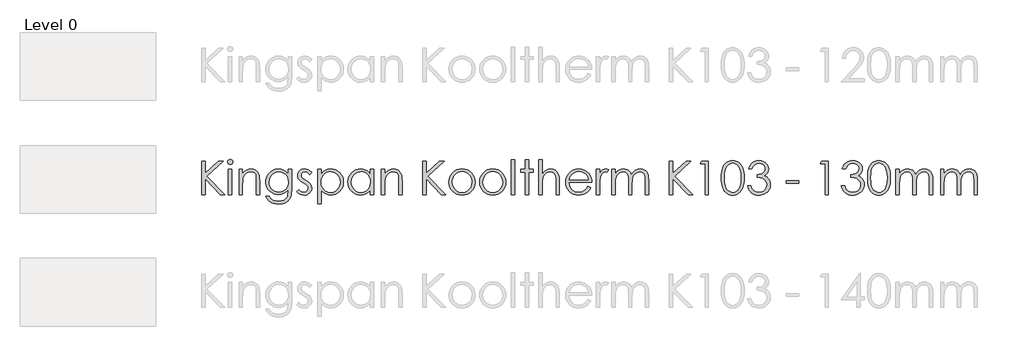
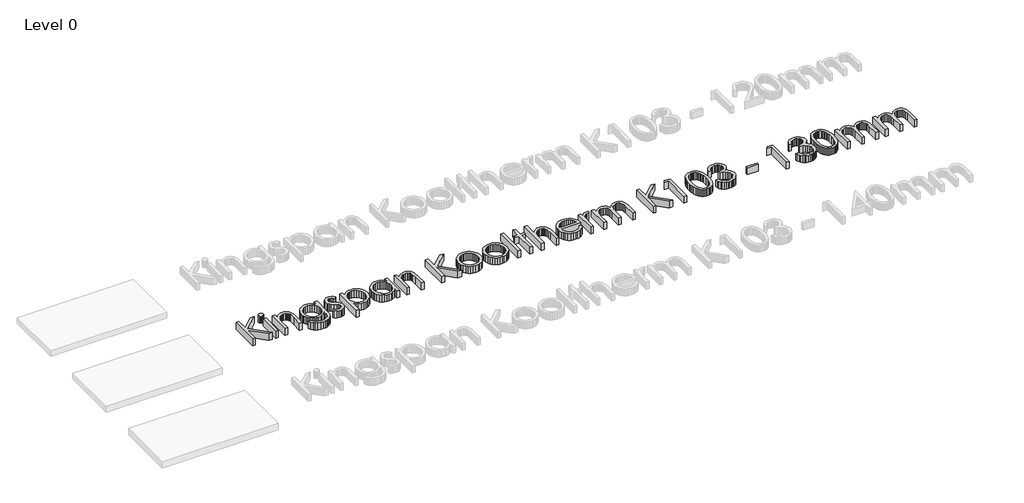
# One storey, part 3 of 13: 1 proxy.
"""IFC4 building model written with IfcOpenShell, lengths in millimetres."""

from ifc_helpers import new_model, si_unit, origin, origin_with_axes, place, context, project, spatial, polyline, outline, extrude, element, save

model = new_model("IFC4")

# Units and contexts
model_context = context("Model", 3, world=origin())
ifc_project = project(units=[si_unit("LENGTHUNIT", "METRE", prefix="MILLI")], contexts=[model_context])

# Site, building, storey
site = spatial("IfcSite", under=ifc_project)
building = spatial("IfcBuilding", under=site)
storey = spatial("IfcBuildingStorey", under=building, Name="Level 0", Elevation=0.0)

# Proxy
placement = place(None, origin())
element("IfcBuildingElementProxy", 1, Name="600mm KI_CenturyGothic", ObjectType="600mm KI_CenturyGothic", at=placement, inside=storey, context=model_context, shape_type="SweptSolid", body=[
    extrude(outline(polyline([(-3852.2663848, -14099.1034017), (-3792.944575, -14099.1034017), (-3792.944575, -14318.316027), (-3555.1938841, -14099.1034017), (-3471.6181051, -14099.1034017), (-3760.9664119, -14366.0515459), (-3441.9572002, -14692.3214999), (-3520.8984627, -14692.3214999), (-3792.944575, -14414.0960325), (-3792.944575, -14692.3214999), (-3852.2663848, -14692.3214999), (-3852.2663848, -14099.1034017)])), origin_with_axes(), (0.0, 0.0, 1.0), 150.0),
    extrude(outline(polyline([(-3348.1854852, -14069.4424967), (-3329.145347, -14072.7252792), (-3313.1176445, -14082.5736265), (-3302.226531, -14097.0178693), (-3298.5961598, -14114.088338), (-3302.226531, -14130.9270809), (-3313.1176445, -14145.2940817), (-3329.145347, -14155.142429), (-3348.1854852, -14158.4252115), (-3366.9938975, -14155.142429), (-3382.9443581, -14145.2940817), (-3393.8354717, -14130.9270809), (-3397.4658428, -14114.088338), (-3393.8354717, -14097.0178693), (-3382.9443581, -14082.5736265), (-3366.9938975, -14072.7252792), (-3348.1854852, -14069.4424967)])), origin_with_axes(), (0.0, 0.0, 1.0), 150.0),
    extrude(outline(polyline([(-3377.6919062, -14247.4079262), (-3318.3700964, -14247.4079262), (-3318.3700964, -14692.3214999), (-3377.6919062, -14692.3214999), (-3377.6919062, -14247.4079262)])), origin_with_axes(), (0.0, 0.0, 1.0), 150.0),
    extrude(outline(polyline([(-3189.8395084, -14247.4079262), (-3130.5176986, -14247.4079262), (-3130.5176986, -14326.5036726), (-3096.9946967, -14286.9944204), (-3060.0730495, -14259.303185), (-3019.7141359, -14242.9665147), (-2975.879335, -14237.5209579), (-2953.4357238, -14239.0995901), (-2932.2955704, -14243.8354865), (-2912.4588747, -14251.7286472), (-2893.9256368, -14262.7790723), (-2877.212412, -14276.5039994), (-2862.835756, -14292.4206667), (-2841.0921499, -14330.8292213), (-2833.6238199, -14355.2087086), (-2828.2892984, -14385.5551357), (-2824.0216812, -14464.1488095), (-2824.0216812, -14692.3214999), (-2883.343491, -14692.3214999), (-2883.343491, -14479.1337458), (-2883.343491, -14376.092998), (-2884.7290183, -14355.2956057), (-2889.8125035, -14337.2403023), (-2898.2849788, -14321.9270877), (-2910.1464442, -14309.355962), (-2924.7403432, -14299.5558909), (-2941.4101193, -14292.5558401), (-2980.977303, -14286.9557994), (-3005.3471351, -14289.1137461), (-3028.4038541, -14295.5875862), (-3050.1474602, -14306.3773197), (-3070.5779533, -14321.4829466), (-3088.6622225, -14339.7651482), (-3103.3671568, -14360.084606), (-3114.6927562, -14382.44132), (-3122.6390208, -14406.8352901), (-3128.5480292, -14453.9142525), (-3130.5176986, -14528.4141035), (-3130.5176986, -14692.3214999), (-3189.8395084, -14692.3214999), (-3189.8395084, -14247.4079262)])), origin_with_axes(), (0.0, 0.0, 1.0), 150.0),
    extrude(outline(polyline([(-2319.7862977, -14247.4079262), (-2260.4644879, -14247.4079262), (-2260.4644879, -14598.395301), (-2264.5196897, -14678.6496765), (-2269.588692, -14709.4499001), (-2276.6852953, -14734.0321474), (-2289.9371156, -14762.6454585), (-2307.2924139, -14787.7732271), (-2328.7511904, -14809.4154531), (-2354.3134448, -14827.5721366), (-2383.3226209, -14841.9343098), (-2415.122162, -14852.1930049), (-2449.7120682, -14858.348222), (-2487.0923395, -14860.3999611), (-2541.0458345, -14856.3833802), (-2589.206184, -14844.3336376), (-2630.260275, -14825.5059147), (-2662.8949946, -14801.1553932), (-2690.2000204, -14767.8061856), (-2715.2650299, -14721.9824048), (-2655.94322, -14721.9824048), (-2642.4355358, -14743.151524), (-2627.0933555, -14761.3951046), (-2609.9166791, -14776.7131468), (-2590.9055067, -14789.1056506), (-2569.7894914, -14798.6691682), (-2546.2982864, -14805.5002523), (-2492.1903075, -14810.9651195), (-2438.5071593, -14805.6354257), (-2415.083541, -14798.9733084), (-2393.93856, -14789.6463441), (-2359.6624492, -14765.6047903), (-2336.8567664, -14736.1176798), (-2329.3884364, -14717.4782342), (-2324.0539149, -14693.7697863), (-2319.7862977, -14631.1458835), (-2319.7862977, -14608.4367532), (-2354.757586, -14644.2190818), (-2396.6420279, -14670.6165148), (-2443.392712, -14686.8952536), (-2492.9627269, -14692.3214999), (-2522.4063889, -14690.4242447), (-2550.9521133, -14684.7324793), (-2578.5999001, -14675.2462036), (-2605.3497494, -14661.9654175), (-2630.1540674, -14645.4742634), (-2651.9652601, -14626.3568832), (-2670.7833277, -14604.6132772), (-2686.6082702, -14580.2434451), (-2699.1456025, -14553.9280817), (-2708.1008399, -14526.3478816), (-2713.4739824, -14497.5028447), (-2715.2650299, -14467.392971), (-2713.3967404, -14437.1044753), (-2707.7918722, -14407.8780563), (-2698.4504251, -14379.713714), (-2685.3723991, -14352.6114483), (-2668.9971079, -14327.4257483), (-2649.7638648, -14305.0111029), (-2627.67267, -14285.367512), (-2602.7235235, -14268.4949758), (-2575.9833294, -14254.943843), (-2548.5189922, -14245.2644624), (-2520.3305117, -14239.456834), (-2491.4178881, -14237.5209579), (-2444.5320306, -14242.4644421), (-2400.8903346, -14257.2948945), (-2359.6045177, -14283.8661218), (-2319.7862977, -14324.0319306), (-2319.7862977, -14247.4079262)]), holes=[polyline([(-2484.1571458, -14286.9557994), (-2529.0154023, -14292.9806707), (-2570.5908765, -14311.0552847), (-2606.2187212, -14339.7699758), (-2633.2340897, -14377.7150788), (-2650.2659375, -14421.9940208), (-2655.94322, -14469.7102292), (-2653.0080263, -14505.6229036), (-2644.2024452, -14538.2817613), (-2629.5264766, -14567.6868023), (-2608.9801206, -14593.8380266), (-2583.7606272, -14615.296803), (-2555.0652466, -14630.6245004), (-2522.8939786, -14639.8211189), (-2487.2468234, -14642.8866584), (-2451.3244937, -14639.845257), (-2419.1001219, -14630.7210528), (-2390.573708, -14615.5140459), (-2365.7452519, -14594.2242363), (-2345.6382095, -14567.9812872), (-2331.2760363, -14537.9148621), (-2322.6587323, -14504.024961), (-2319.7862977, -14466.3115838), (-2325.0773706, -14417.6105407), (-2340.9505892, -14374.3936754), (-2366.4983608, -14338.1672056), (-2400.8130926, -14310.4373492), (-2440.9982119, -14292.8261869), (-2484.1571458, -14286.9557994)])]), origin_with_axes(), (0.0, 0.0, 1.0), 150.0),
    extrude(outline(polyline([(-1904.5336289, -14298.6965743), (-1940.9918246, -14336.390641), (-1962.9575012, -14314.7628978), (-1984.6721416, -14299.3145098), (-2006.1357456, -14290.045477), (-2027.3483133, -14286.9557994), (-2052.181597, -14291.6289368), (-2073.2300256, -14305.6483489), (-2087.5970264, -14325.8857371), (-2092.3860267, -14349.212803), (-2088.4466878, -14370.7633042), (-2076.628671, -14391.2324183), (-2052.0657341, -14413.400855), (-2010.2006027, -14439.122421), (-1958.3326401, -14471.9888664), (-1939.8428507, -14487.8138088), (-1926.315856, -14503.2332311), (-1909.9791857, -14535.9065716), (-1904.5336289, -14572.4420092), (-1906.9474396, -14598.5884059), (-1914.1888714, -14622.6492701), (-1926.2579245, -14644.624602), (-1943.1545989, -14664.5144015), (-1963.6719892, -14681.0055557), (-1986.6031901, -14692.7849515), (-2011.9482016, -14699.852589), (-2039.7070237, -14702.2084682), (-2077.4397114, -14698.3270607), (-2113.3958344, -14686.6828383), (-2145.4512394, -14668.2027042), (-2171.4817731, -14643.8135617), (-2135.7959969, -14603.3387852), (-2114.0041146, -14624.9665283), (-2091.5749863, -14640.4149163), (-2068.5086121, -14649.6839491), (-2044.8049918, -14652.7736267), (-2013.637869, -14647.1349651), (-1987.4914724, -14630.2189802), (-1969.7644472, -14605.6560434), (-1963.8554388, -14577.0765256), (-1967.7561567, -14553.2860081), (-1979.4583106, -14532.2762005), (-2005.0253927, -14510.5712154), (-2050.2119275, -14483.7682622), (-2099.762632, -14453.1032121), (-2117.441381, -14437.9444814), (-2130.3890611, -14422.9016136), (-2146.3781427, -14390.7689666), (-2151.7078365, -14354.310771), (-2149.5305794, -14330.2643896), (-2142.9988078, -14308.3325063), (-2132.1125219, -14288.5151211), (-2116.8717217, -14270.812234), (-2098.309518, -14256.2473007), (-2077.4590218, -14245.8437769), (-2054.3202332, -14239.6016627), (-2028.8931521, -14237.5209579), (-1997.9481, -14241.3444339), (-1966.9064954, -14252.814862), (-1935.7683384, -14271.9322421), (-1904.5336289, -14298.6965743)])), origin_with_axes(), (0.0, 0.0, 1.0), 150.0),
    extrude(outline(polyline([(-1795.7769776, -14247.4079262), (-1736.4551678, -14247.4079262), (-1736.4551678, -14328.5119631), (-1700.9238754, -14288.2689124), (-1660.4490989, -14259.9211205), (-1614.9922173, -14243.1209986), (-1564.5146096, -14237.5209579), (-1520.0618732, -14241.7596094), (-1478.9305402, -14254.4755637), (-1441.1206107, -14275.668821), (-1406.6320845, -14305.3393811), (-1377.9077381, -14340.9768811), (-1357.3903478, -14380.070958), (-1345.0799137, -14422.6216116), (-1340.9764356, -14468.628842), (-1345.0412927, -14515.5291824), (-1357.235864, -14558.7508754), (-1377.5601494, -14598.293921), (-1406.014149, -14634.1583192), (-1440.2130179, -14663.9302594), (-1477.7719111, -14685.1959309), (-1518.6908288, -14697.9553339), (-1562.9697708, -14702.2084682), (-1612.6170277, -14696.743601), (-1658.0545988, -14680.3489992), (-1699.3211052, -14653.1019049), (-1736.4551678, -14615.07956), (-1736.4551678, -14850.5129928), (-1795.7769776, -14850.5129928), (-1795.7769776, -14247.4079262)]), holes=[polyline([(-1568.5311905, -14286.9557994), (-1602.5852307, -14290.2530647), (-1633.8392507, -14300.1448607), (-1662.2932503, -14316.6311872), (-1687.9472295, -14339.7120444), (-1709.1694525, -14367.6977647), (-1724.3281832, -14398.8986808), (-1733.4234216, -14433.3147926), (-1736.4551678, -14470.9461002), (-1731.048232, -14519.8016272), (-1714.8274246, -14563.4819442), (-1688.5265441, -14600.3263495), (-1652.8793888, -14628.6741414), (-1611.4390881, -14646.7487554), (-1567.7587711, -14652.7736267), (-1525.0632888, -14646.7101344), (-1485.0326535, -14628.5196576), (-1450.2544701, -14599.4187567), (-1423.3163435, -14560.6239924), (-1406.05277, -14515.9588407), (-1400.2982454, -14469.2467775), (-1405.9948385, -14422.3029886), (-1423.0846177, -14377.8695627), (-1449.8103289, -14339.5189395), (-1484.414718, -14310.8235589), (-1524.7157001, -14292.9227393), (-1568.5311905, -14286.9557994)])]), origin_with_axes(), (0.0, 0.0, 1.0), 150.0),
    extrude(outline(polyline([(-807.0801472, -14247.4079262), (-807.0801472, -14692.3214999), (-866.401957, -14692.3214999), (-866.401957, -14616.4699149), (-903.4780882, -14654.3184655), (-944.8797679, -14681.0441767), (-990.4525125, -14696.9173953), (-1040.0418379, -14702.2084682), (-1084.3159523, -14697.9553339), (-1125.2203871, -14685.1959309), (-1162.7551422, -14663.9302594), (-1196.9202178, -14634.1583192), (-1225.340424, -14598.293921), (-1245.6405713, -14558.7508754), (-1257.8206597, -14515.5291824), (-1261.8806892, -14468.628842), (-1257.7820388, -14422.6216116), (-1245.4860875, -14380.070958), (-1224.9928353, -14340.9768811), (-1196.3022822, -14305.3393811), (-1161.8475494, -14275.668821), (-1124.061758, -14254.4755637), (-1082.9449079, -14241.7596094), (-1038.4969991, -14237.5209579), (-987.7490446, -14243.1209986), (-942.0990581, -14259.9211205), (-921.2051134, -14272.6081091), (-901.6242816, -14288.2689124), (-866.401957, -14328.5119631), (-866.401957, -14247.4079262), (-807.0801472, -14247.4079262)]), holes=[polyline([(-1034.3259343, -14286.9557994), (-1078.1414247, -14292.9227393), (-1118.4424068, -14310.8235589), (-1153.0467959, -14339.5189395), (-1179.7725071, -14377.8695627), (-1196.8622863, -14422.3029886), (-1202.5588794, -14469.2467775), (-1196.8043548, -14515.9588407), (-1179.5407813, -14560.6239924), (-1152.6026548, -14599.4187567), (-1117.8244713, -14628.5196576), (-1077.6779731, -14646.7101344), (-1034.6349021, -14652.7736267), (-991.0125165, -14646.7487554), (-949.7460102, -14628.6741414), (-914.2726493, -14600.3263495), (-888.0297002, -14563.4819442), (-871.8088928, -14519.8016272), (-866.401957, -14470.9461002), (-869.4337032, -14433.3147926), (-878.5289416, -14398.8986808), (-893.6876723, -14367.6977647), (-914.9098953, -14339.7120444), (-940.5638746, -14316.6311872), (-969.0178742, -14300.1448607), (-1000.2718941, -14290.2530647), (-1034.3259343, -14286.9557994)])]), origin_with_axes(), (0.0, 0.0, 1.0), 150.0),
    extrude(outline(polyline([(-668.662591, -14247.4079262), (-609.3407811, -14247.4079262), (-609.3407811, -14326.5036726), (-575.8177792, -14286.9944204), (-538.896132, -14259.303185), (-498.5372184, -14242.9665147), (-454.7024175, -14237.5209579), (-432.2588064, -14239.0995901), (-411.1186529, -14243.8354865), (-391.2819572, -14251.7286472), (-372.7487193, -14262.7790723), (-356.0354946, -14276.5039994), (-341.6588385, -14292.4206667), (-319.9152324, -14330.8292213), (-312.4469024, -14355.2087086), (-307.1123809, -14385.5551357), (-302.8447637, -14464.1488095), (-302.8447637, -14692.3214999), (-362.1665735, -14692.3214999), (-362.1665735, -14479.1337458), (-362.1665735, -14376.092998), (-363.5521008, -14355.2956057), (-368.635586, -14337.2403023), (-377.1080613, -14321.9270877), (-388.9695267, -14309.355962), (-403.5634257, -14299.5558909), (-420.2332018, -14292.5558401), (-459.8003855, -14286.9557994), (-484.1702176, -14289.1137461), (-507.2269366, -14295.5875862), (-528.9705427, -14306.3773197), (-549.4010358, -14321.4829466), (-567.485305, -14339.7651482), (-582.1902393, -14360.084606), (-593.5158387, -14382.44132), (-601.4621033, -14406.8352901), (-607.3711117, -14453.9142525), (-609.3407811, -14528.4141035), (-609.3407811, -14692.3214999), (-668.662591, -14692.3214999), (-668.662591, -14247.4079262)])), origin_with_axes(), (0.0, 0.0, 1.0), 150.0),
    extrude(outline(polyline([(62.9730635, -14099.1034017), (122.2948734, -14099.1034017), (122.2948734, -14318.316027), (360.0455643, -14099.1034017), (443.6213432, -14099.1034017), (154.2730365, -14366.0515459), (473.2822481, -14692.3214999), (394.3409856, -14692.3214999), (122.2948734, -14414.0960325), (122.2948734, -14692.3214999), (62.9730635, -14692.3214999), (62.9730635, -14099.1034017)])), origin_with_axes(), (0.0, 0.0, 1.0), 150.0),
    extrude(outline(polyline([(760.1588128, -14237.5209579), (809.4681362, -14242.1458191), (854.3553585, -14256.0204025), (894.8204798, -14279.1447083), (930.8635, -14311.5187363), (957.7630055, -14346.7507161), (976.9769381, -14385.091684), (988.5052976, -14426.54164), (992.3480841, -14471.1005841), (988.283227, -14515.9153921), (976.0886558, -14557.8239721), (955.7643703, -14596.8263241), (927.3103707, -14632.9224481), (892.4742558, -14663.2350819), (853.0036246, -14684.8869632), (808.8984769, -14697.8780919), (760.1588128, -14702.2084682), (711.2839754, -14697.8780919), (667.0822753, -14684.8869632), (627.5537126, -14663.2350819), (592.6982872, -14632.9224481), (564.2442876, -14596.8263241), (543.9200022, -14557.8239721), (531.7254309, -14515.9153921), (527.6605738, -14471.1005841), (531.5033603, -14426.7347449), (543.0317198, -14385.4006518), (562.2456524, -14347.0983049), (589.145158, -14311.8277041), (625.2074886, -14279.3185026), (665.7305413, -14256.0976445), (710.7143161, -14242.1651295), (760.1588128, -14237.5209579)]), holes=[polyline([(760.004329, -14286.9557994), (725.7282181, -14290.3303067), (693.9624704, -14300.4538284), (664.7070856, -14317.3263647), (637.962064, -14340.9479154), (615.6584538, -14369.3584664), (599.7273037, -14400.5980035), (590.1686137, -14434.6665266), (586.9823836, -14471.5640357), (592.7948396, -14519.2995546), (610.2322075, -14563.6364281), (637.5758543, -14601.4270471), (673.1071466, -14629.5238028), (714.6439998, -14646.9611707), (760.004329, -14652.7736267), (805.3646581, -14646.9611707), (846.9015113, -14629.5238028), (882.4328037, -14601.4270471), (909.7764504, -14563.6364281), (927.2138183, -14519.2995546), (933.0262743, -14471.5640357), (929.8255614, -14434.6665266), (920.2234227, -14400.5980035), (904.2198583, -14369.3584664), (881.8148681, -14340.9479154), (854.9974321, -14317.3263647), (825.7565303, -14300.4538284), (794.0921625, -14290.3303067), (760.004329, -14286.9557994)])]), origin_with_axes(), (0.0, 0.0, 1.0), 150.0),
    extrude(outline(polyline([(1303.9420695, -14237.5209579), (1353.2513929, -14242.1458191), (1398.1386152, -14256.0204025), (1438.6037365, -14279.1447083), (1474.6467567, -14311.5187363), (1501.5462622, -14346.7507161), (1520.7601948, -14385.091684), (1532.2885543, -14426.54164), (1536.1313408, -14471.1005841), (1532.0664837, -14515.9153921), (1519.8719125, -14557.8239721), (1499.547627, -14596.8263241), (1471.0936274, -14632.9224481), (1436.2575126, -14663.2350819), (1396.7868813, -14684.8869632), (1352.6817336, -14697.8780919), (1303.9420695, -14702.2084682), (1255.0672321, -14697.8780919), (1210.865532, -14684.8869632), (1171.3369693, -14663.2350819), (1136.4815439, -14632.9224481), (1108.0275443, -14596.8263241), (1087.7032589, -14557.8239721), (1075.5086876, -14515.9153921), (1071.4438305, -14471.1005841), (1075.286617, -14426.7347449), (1086.8149766, -14385.4006518), (1106.0289091, -14347.0983049), (1132.9284147, -14311.8277041), (1168.9907453, -14279.3185026), (1209.5137981, -14256.0976445), (1254.4975728, -14242.1651295), (1303.9420695, -14237.5209579)]), holes=[polyline([(1303.7875857, -14286.9557994), (1269.5114748, -14290.3303067), (1237.7457271, -14300.4538284), (1208.4903423, -14317.3263647), (1181.7453207, -14340.9479154), (1159.4417105, -14369.3584664), (1143.5105604, -14400.5980035), (1133.9518704, -14434.6665266), (1130.7656404, -14471.5640357), (1136.5780963, -14519.2995546), (1154.0154643, -14563.6364281), (1181.359111, -14601.4270471), (1216.8904033, -14629.5238028), (1258.4272565, -14646.9611707), (1303.7875857, -14652.7736267), (1349.1479149, -14646.9611707), (1390.684768, -14629.5238028), (1426.2160604, -14601.4270471), (1453.5597071, -14563.6364281), (1470.997075, -14519.2995546), (1476.809531, -14471.5640357), (1473.6088181, -14434.6665266), (1464.0066795, -14400.5980035), (1448.003115, -14369.3584664), (1425.5981249, -14340.9479154), (1398.7806889, -14317.3263647), (1369.539787, -14300.4538284), (1337.8754193, -14290.3303067), (1303.7875857, -14286.9557994)])]), origin_with_axes(), (0.0, 0.0, 1.0), 150.0),
    extrude(outline(polyline([(1635.0010238, -14079.3294651), (1694.3228337, -14079.3294651), (1694.3228337, -14692.3214999), (1635.0010238, -14692.3214999), (1635.0010238, -14079.3294651)])), origin_with_axes(), (0.0, 0.0, 1.0), 150.0),
    extrude(outline(polyline([(1882.1752314, -14079.3294651), (1941.4970413, -14079.3294651), (1941.4970413, -14247.4079262), (2020.5927877, -14247.4079262), (2020.5927877, -14296.8427677), (1941.4970413, -14296.8427677), (1941.4970413, -14692.3214999), (1882.1752314, -14692.3214999), (1882.1752314, -14296.8427677), (1803.079485, -14296.8427677), (1803.079485, -14247.4079262), (1882.1752314, -14247.4079262), (1882.1752314, -14079.3294651)])), origin_with_axes(), (0.0, 0.0, 1.0), 150.0),
    extrude(outline(polyline([(2119.4624707, -14079.3294651), (2178.7842806, -14079.3294651), (2178.7842806, -14328.0485114), (2212.5583188, -14288.3461544), (2249.6151394, -14260.0756044), (2289.9161216, -14243.1596195), (2333.4226442, -14237.5209579), (2355.8662553, -14239.0995901), (2377.0064088, -14243.8354865), (2396.8431044, -14251.7286472), (2415.3763424, -14262.7790723), (2432.0895671, -14276.4895166), (2446.4662232, -14292.3627352), (2468.2098293, -14330.5974955), (2475.6781593, -14354.9045684), (2481.0126808, -14385.2654784), (2485.280298, -14464.1488095), (2485.280298, -14692.3214999), (2425.9584882, -14692.3214999), (2425.9584882, -14479.1337458), (2424.5681332, -14414.752589), (2420.3970685, -14376.092998), (2406.879729, -14337.2403023), (2397.1665551, -14321.9270877), (2385.4837117, -14309.355962), (2371.840854, -14299.5558909), (2356.2476374, -14292.5558401), (2319.2101273, -14286.9557994), (2296.3416854, -14289.1137461), (2274.6994594, -14295.5875862), (2254.2834492, -14306.3773197), (2235.0936547, -14321.4829466), (2218.1052556, -14339.7651482), (2204.2934312, -14360.084606), (2193.6581816, -14382.44132), (2186.1995068, -14406.8352901), (2180.6380871, -14453.6825267), (2178.7842806, -14528.4141035), (2178.7842806, -14692.3214999), (2119.4624707, -14692.3214999), (2119.4624707, -14079.3294651)])), origin_with_axes(), (0.0, 0.0, 1.0), 150.0),
    extrude(outline(polyline([(2991.0605203, -14544.0169753), (3038.950523, -14569.1978477), (3013.3255094, -14611.0822896), (2984.0315038, -14644.0452875), (2950.952643, -14669.1296074), (2913.9730643, -14687.3780157), (2872.4941426, -14698.5008551), (2825.9172528, -14702.2084682), (2774.4258447, -14697.7767119), (2728.8627554, -14684.481443), (2689.227985, -14662.3226615), (2655.5215335, -14631.3003674), (2628.6220279, -14594.6973431), (2609.4080954, -14555.7963712), (2597.8797358, -14514.5974515), (2594.0369493, -14471.1005841), (2597.3197318, -14430.2202874), (2607.1680791, -14391.618628), (2623.5819913, -14355.2956057), (2646.5614684, -14321.2512207), (2682.7493173, -14284.6192308), (2724.5758277, -14258.4535236), (2772.0409998, -14242.7540993), (2825.1448334, -14237.5209579), (2879.7935059, -14242.8892727), (2928.6490329, -14258.9942172), (2971.7114143, -14285.8357913), (3008.9806503, -14323.4139951), (3030.4539096, -14355.585263), (3045.9022976, -14391.541386), (3055.3258143, -14431.2823641), (3058.7244596, -14474.8081972), (2653.3587591, -14474.8081972), (2657.095338, -14512.0629503), (2666.6057518, -14545.8128504), (2681.8900007, -14576.0578975), (2702.9480845, -14602.7980916), (2728.3124066, -14624.6623882), (2756.5153699, -14640.2797429), (2787.5569744, -14649.6501557), (2821.4372203, -14652.7736267), (2854.9602222, -14649.761191), (2887.5563208, -14640.7238841), (2917.2944677, -14626.6851615), (2942.2436143, -14608.668479), (2965.725164, -14582.5027719), (2991.0605203, -14544.0169753)]), holes=[polyline([(2999.4026498, -14425.3733557), (2984.9777175, -14382.8516678), (2965.1844704, -14349.8307385), (2939.0766947, -14324.3022774), (2905.7081767, -14304.257994), (2867.7630738, -14291.2813481), (2827.9255433, -14286.9557994), (2795.503239, -14289.6689226), (2765.4368139, -14297.808292), (2737.726268, -14311.3739077), (2712.3716012, -14330.3657696), (2695.8321708, -14348.179692), (2681.4362043, -14369.9522638), (2669.1837016, -14395.683485), (2659.0746627, -14425.3733557), (2999.4026498, -14425.3733557)])]), origin_with_axes(), (0.0, 0.0, 1.0), 150.0),
    extrude(outline(polyline([(3137.820206, -14247.4079262), (3197.1420159, -14247.4079262), (3197.1420159, -14311.8277041), (3222.6897875, -14278.7874643), (3249.589293, -14255.6728138), (3277.7632906, -14242.0589219), (3307.1345382, -14237.5209579), (3330.4616041, -14241.305813), (3355.3335087, -14252.6603781), (3325.8270877, -14294.6799934), (3297.2475699, -14286.9557994), (3270.8308265, -14292.9034288), (3245.3409863, -14310.7463169), (3223.2884125, -14341.1023993), (3207.183468, -14384.5896114), (3199.6523789, -14442.7141712), (3197.1420159, -14540.1548783), (3197.1420159, -14692.3214999), (3137.820206, -14692.3214999), (3137.820206, -14247.4079262)])), origin_with_axes(), (0.0, 0.0, 1.0), 150.0),
    extrude(outline(polyline([(3414.6553185, -14247.4079262), (3473.9771284, -14247.4079262), (3473.9771284, -14323.5684789), (3503.5607913, -14287.0716623), (3533.9168737, -14261.9294109), (3577.3268439, -14243.6230712), (3622.8995884, -14237.5209579), (3653.7384329, -14240.668567), (3682.9165757, -14250.1113941), (3708.6767627, -14264.7873627), (3729.2617397, -14283.634396), (3746.0425511, -14309.0663047), (3760.3902414, -14343.4968994), (3775.16759, -14319.0981017), (3791.6925376, -14297.808292), (3809.965084, -14279.6274704), (3829.9852293, -14264.5556369), (3851.2798666, -14252.7279648), (3873.375889, -14244.2796277), (3896.2732965, -14239.2106253), (3919.9720892, -14237.5209579), (3962.3006723, -14243.3334139), (3981.4952943, -14250.5989839), (3999.3768034, -14260.7707818), (4015.4914031, -14273.53984), (4029.385297, -14288.5971907), (4050.5109676, -14325.5767694), (4057.8103309, -14348.9521114), (4063.0241619, -14377.5219739), (4067.1952266, -14450.2452603), (4067.1952266, -14692.3214999), (4007.8734168, -14692.3214999), (4007.8734168, -14446.6921311), (4005.4209852, -14385.5744462), (3998.0636904, -14347.1272706), (3984.7587663, -14322.6608861), (3964.4634466, -14303.4855746), (3938.3942919, -14291.0882432), (3907.7678627, -14286.9557994), (3888.1194442, -14288.5054659), (3869.3399976, -14293.1544651), (3834.3880198, -14311.7504621), (3805.6540182, -14340.6968791), (3785.8800816, -14377.9468046), (3779.1889985, -14402.1042213), (3774.4096535, -14433.1747916), (3770.5861775, -14516.0553931), (3770.5861775, -14692.3214999), (3711.2643677, -14692.3214999), (3711.2643677, -14461.9860352), (3708.850557, -14393.530366), (3701.6091252, -14351.2983353), (3688.3621325, -14325.0553863), (3667.9316394, -14304.5669617), (3641.6114484, -14291.35859), (3610.6953619, -14286.9557994), (3573.7544042, -14292.9999812), (3539.2465676, -14311.1325266), (3510.2808401, -14339.499629), (3489.9662099, -14376.2474819), (3477.9743988, -14428.0768236), (3473.9771284, -14501.6883923), (3473.9771284, -14692.3214999), (3414.6553185, -14692.3214999), (3414.6553185, -14247.4079262)])), origin_with_axes(), (0.0, 0.0, 1.0), 150.0),
    extrude(outline(polyline([(4433.0130538, -14099.1034017), (4492.3348637, -14099.1034017), (4492.3348637, -14318.316027), (4730.0855546, -14099.1034017), (4813.6613335, -14099.1034017), (4524.3130268, -14366.0515459), (4843.3222385, -14692.3214999), (4764.3809759, -14692.3214999), (4492.3348637, -14414.0960325), (4492.3348637, -14692.3214999), (4433.0130538, -14692.3214999), (4433.0130538, -14099.1034017)])), origin_with_axes(), (0.0, 0.0, 1.0), 150.0),
    extrude(outline(polyline([(5010.6282802, -14099.1034017), (5125.1008351, -14099.1034017), (5125.1008351, -14692.3214999), (5065.7790253, -14692.3214999), (5065.7790253, -14148.5382432), (4976.7963106, -14148.5382432), (5010.6282802, -14099.1034017)])), origin_with_axes(), (0.0, 0.0, 1.0), 150.0),
    extrude(outline(polyline([(5352.5011061, -14395.8669347), (5354.0797383, -14341.4355052), (5358.8156347, -14293.5406748), (5366.7087954, -14252.1824436), (5377.7592204, -14217.3608116), (5391.6869077, -14187.7192172), (5408.2118552, -14161.9010988), (5427.334063, -14139.9064564), (5449.053531, -14121.73529), (5472.747496, -14107.5082902), (5497.793195, -14097.3461475), (5524.190628, -14091.2488619), (5551.9397949, -14089.2164334), (5580.1427582, -14091.2633448), (5606.974677, -14097.404079), (5632.4355515, -14107.638636), (5656.5253815, -14121.9670159), (5678.7083011, -14140.3843909), (5698.4484443, -14162.8859335), (5715.7458112, -14189.4716437), (5730.6004018, -14220.1415214), (5742.5294539, -14255.6583309), (5751.0502054, -14296.7848363), (5756.1626563, -14343.5210375), (5757.8668066, -14395.8669347), (5756.1867944, -14448.0535203), (5751.1467578, -14494.6207548), (5742.7466968, -14535.5686382), (5730.9866115, -14570.8971704), (5716.2768496, -14601.4222195), (5699.0277589, -14627.9596535), (5679.2393394, -14650.5094723), (5656.9115912, -14669.071676), (5632.6527944, -14683.5690226), (5607.0712295, -14693.9242701), (5580.1668963, -14700.1374187), (5551.9397949, -14702.2084682), (5524.2147661, -14700.2001778), (5497.8897474, -14694.1753064), (5472.964739, -14684.1338543), (5449.4397407, -14670.0758212), (5427.8651013, -14652.0398282), (5408.7911698, -14630.0644964), (5392.2179461, -14604.1498255), (5378.1454301, -14574.2958158), (5366.9260384, -14539.2762513), (5358.9121871, -14497.8649163), (5354.1038764, -14450.0618107), (5352.5011061, -14395.8669347)]), holes=[polyline([(5411.8229159, -14395.7124508), (5416.206396, -14484.038609), (5421.6857461, -14519.0195525), (5429.3568363, -14547.8790723), (5439.1713903, -14572.1185586), (5451.0811319, -14593.2394015), (5465.0860611, -14611.2416011), (5481.1861779, -14626.1251574), (5516.4857445, -14646.1115094), (5534.8886366, -14651.1080973), (5553.7936014, -14652.7736267), (5572.7854634, -14651.1418907), (5591.1400794, -14646.2466828), (5625.9375733, -14626.665851), (5641.694929, -14611.9898824), (5655.4439943, -14594.0697524), (5667.1847692, -14572.9054608), (5676.9172536, -14548.4970078), (5686.3793912, -14515.1381451), (5693.138061, -14478.5544313), (5698.5449967, -14395.7124508), (5693.7173755, -14314.1063413), (5687.682849, -14279.4150551), (5679.2345118, -14248.7982811), (5668.652366, -14222.135329), (5656.2164137, -14199.3055082), (5641.9266548, -14180.3088186), (5625.7830894, -14165.1452603), (5590.7152487, -14145.2747712), (5572.4861509, -14140.307149), (5553.7936014, -14138.6512749), (5534.7776014, -14140.307149), (5516.3505711, -14145.2747712), (5481.2634199, -14165.1452603), (5465.3177869, -14179.9564022), (5451.3900996, -14197.8958428), (5439.480358, -14218.9635819), (5429.5885621, -14243.1596195), (5421.8160919, -14272.0143117), (5416.2643275, -14307.0580143), (5411.8229159, -14395.7124508)])]), origin_with_axes(), (0.0, 0.0, 1.0), 150.0),
    extrude(outline(polyline([(5896.2843628, -14237.5209579), (5836.962553, -14237.5209579), (5847.4867673, -14203.8917483), (5861.9116996, -14174.3756721), (5880.2373498, -14148.9727291), (5902.463718, -14127.6829194), (5927.7314876, -14110.8538318), (5955.181342, -14098.8330549), (5984.8132812, -14091.6205887), (6016.6273051, -14089.2164334), (6062.9145376, -14094.3723328), (6105.9962296, -14109.8400313), (6142.7827034, -14134.0553795), (6170.1842816, -14165.454228), (6187.2161294, -14201.2365567), (6192.8934119, -14238.6023451), (6188.2106193, -14274.037085), (6174.1622415, -14305.5711069), (6150.7482785, -14333.2044109), (6117.9687303, -14356.936997), (6155.3538292, -14378.1012885), (6185.3237018, -14407.2987418), (6201.6120959, -14431.398227), (6213.2466631, -14456.8880672), (6220.2274034, -14483.7682622), (6222.5543169, -14512.0388122), (6220.8549942, -14536.7031292), (6215.7570261, -14560.7977868), (6207.2604128, -14584.3227851), (6195.365154, -14607.2781241), (6180.5347016, -14628.6644862), (6163.232507, -14647.4825538), (6143.4585704, -14663.7323269), (6121.2128917, -14677.4138055), (6097.0361646, -14688.2614704), (6071.4690825, -14696.0098025), (6044.5116454, -14700.6588018), (6016.1638535, -14702.2084682), (5978.6290984, -14699.5387936), (5944.3481599, -14691.52977), (5913.3210382, -14678.1813973), (5885.5477332, -14659.4936754), (5861.6654909, -14635.6403989), (5842.3115573, -14606.795362), (5827.4859325, -14572.9585647), (5817.1886164, -14534.130007), (5876.5104262, -14534.130007), (5895.5505644, -14584.8779615), (5907.6485832, -14604.169136), (5921.4652352, -14619.4051087), (5941.5288291, -14634.0038353), (5964.180028, -14644.4314972), (5989.4188318, -14650.6880943), (6017.2452407, -14652.7736267), (6048.6054683, -14650.2777465), (6076.7215344, -14642.7901059), (6101.593439, -14630.310705), (6123.2211822, -14612.8395438), (6140.7261368, -14592.0180133), (6153.2296758, -14569.487505), (6160.7317992, -14545.2480188), (6163.232507, -14519.2995546), (6158.2310914, -14484.7337865), (6143.2268446, -14452.4080346), (6119.8032263, -14425.0450774), (6089.5436964, -14405.3676933), (6046.6357988, -14392.5648417), (5985.2670776, -14385.8254825), (5985.2670776, -14336.390641), (6027.1515195, -14332.7409593), (6065.0580014, -14321.7919143), (6096.0706403, -14305.2042077), (6117.2735528, -14284.6385412), (6129.4970898, -14261.0797496), (6133.5716021, -14235.5126675), (6131.5102078, -14216.4821845), (6125.326025, -14198.7841251), (6115.0190537, -14182.4184891), (6100.5892938, -14167.3852765), (6083.0119248, -14154.8141508), (6063.2621263, -14145.8347753), (6041.3398983, -14140.44715), (6017.2452407, -14138.6512749), (5979.2228958, -14144.270626), (5946.7233496, -14161.1286794), (5932.4191078, -14174.3322235), (5919.2445295, -14191.4654513), (5896.2843628, -14237.5209579)])), origin_with_axes(), (0.0, 0.0, 1.0), 150.0),
    extrude(outline(polyline([(6499.3894294, -14445.1472923), (6726.7897004, -14445.1472923), (6726.7897004, -14494.5821338), (6499.3894294, -14494.5821338), (6499.3894294, -14445.1472923)])), origin_with_axes(), (0.0, 0.0, 1.0), 150.0),
    extrude(outline(polyline([(7136.3264656, -14099.1034017), (7250.7990205, -14099.1034017), (7250.7990205, -14692.3214999), (7191.4772106, -14692.3214999), (7191.4772106, -14148.5382432), (7102.4944959, -14148.5382432), (7136.3264656, -14099.1034017)])), origin_with_axes(), (0.0, 0.0, 1.0), 150.0),
    extrude(outline(polyline([(7557.2950379, -14237.5209579), (7497.9732281, -14237.5209579), (7508.4974424, -14203.8917483), (7522.9223746, -14174.3756721), (7541.2480249, -14148.9727291), (7563.4743931, -14127.6829194), (7588.7421626, -14110.8538318), (7616.192017, -14098.8330549), (7645.8239562, -14091.6205887), (7677.6379802, -14089.2164334), (7723.9252127, -14094.3723328), (7767.0069046, -14109.8400313), (7803.7933785, -14134.0553795), (7831.1949567, -14165.454228), (7848.2268044, -14201.2365567), (7853.904087, -14238.6023451), (7849.2212944, -14274.037085), (7835.1729166, -14305.5711069), (7811.7589536, -14333.2044109), (7778.9794053, -14356.936997), (7816.3645042, -14378.1012885), (7846.3343769, -14407.2987418), (7862.622771, -14431.398227), (7874.2573382, -14456.8880672), (7881.2380785, -14483.7682622), (7883.5649919, -14512.0388122), (7881.8656692, -14536.7031292), (7876.7677012, -14560.7977868), (7868.2710878, -14584.3227851), (7856.3758291, -14607.2781241), (7841.5453766, -14628.6644862), (7824.2431821, -14647.4825538), (7804.4692455, -14663.7323269), (7782.2235668, -14677.4138055), (7758.0468396, -14688.2614704), (7732.4797575, -14696.0098025), (7705.5223205, -14700.6588018), (7677.1745286, -14702.2084682), (7639.6397734, -14699.5387936), (7605.358835, -14691.52977), (7574.3317132, -14678.1813973), (7546.5584082, -14659.4936754), (7522.676166, -14635.6403989), (7503.3222324, -14606.795362), (7488.4966076, -14572.9585647), (7478.1992914, -14534.130007), (7537.5211013, -14534.130007), (7556.5612394, -14584.8779615), (7568.6592583, -14604.169136), (7582.4759103, -14619.4051087), (7602.5395042, -14634.0038353), (7625.190703, -14644.4314972), (7650.4295069, -14650.6880943), (7678.2559157, -14652.7736267), (7709.6161433, -14650.2777465), (7737.7322094, -14642.7901059), (7762.6041141, -14630.310705), (7784.2318572, -14612.8395438), (7801.7368119, -14592.0180133), (7814.2403509, -14569.487505), (7821.7424743, -14545.2480188), (7824.2431821, -14519.2995546), (7819.2417665, -14484.7337865), (7804.2375197, -14452.4080346), (7780.8139014, -14425.0450774), (7750.5543714, -14405.3676933), (7707.6464738, -14392.5648417), (7646.2777526, -14385.8254825), (7646.2777526, -14336.390641), (7688.1621945, -14332.7409593), (7726.0686765, -14321.7919143), (7757.0813154, -14305.2042077), (7778.2842279, -14284.6385412), (7790.5077648, -14261.0797496), (7794.5822772, -14235.5126675), (7792.5208829, -14216.4821845), (7786.3367001, -14198.7841251), (7776.0297287, -14182.4184891), (7761.5999688, -14167.3852765), (7744.0225999, -14154.8141508), (7724.2728014, -14145.8347753), (7702.3505733, -14140.44715), (7678.2559157, -14138.6512749), (7640.2335708, -14144.270626), (7607.7340246, -14161.1286794), (7593.4297829, -14174.3322235), (7580.2552045, -14191.4654513), (7557.2950379, -14237.5209579)])), origin_with_axes(), (0.0, 0.0, 1.0), 150.0),
    extrude(outline(polyline([(7942.8868017, -14395.8669347), (7944.4654339, -14341.4355052), (7949.2013303, -14293.5406748), (7957.094491, -14252.1824436), (7968.1449161, -14217.3608116), (7982.0726034, -14187.7192172), (7998.5975509, -14161.9010988), (8017.7197586, -14139.9064564), (8039.4392266, -14121.73529), (8063.1331916, -14107.5082902), (8088.1788906, -14097.3461475), (8114.5763236, -14091.2488619), (8142.3254905, -14089.2164334), (8170.5284538, -14091.2633448), (8197.3603726, -14097.404079), (8222.8212471, -14107.638636), (8246.9110771, -14121.9670159), (8269.0939967, -14140.3843909), (8288.8341399, -14162.8859335), (8306.1315069, -14189.4716437), (8320.9860974, -14220.1415214), (8332.9151495, -14255.6583309), (8341.435901, -14296.7848363), (8346.5483519, -14343.5210375), (8348.2525022, -14395.8669347), (8346.57249, -14448.0535203), (8341.5324534, -14494.6207548), (8333.1323925, -14535.5686382), (8321.3723071, -14570.8971704), (8306.6625452, -14601.4222195), (8289.4134545, -14627.9596535), (8269.625035, -14650.5094723), (8247.2972868, -14669.071676), (8223.03849, -14683.5690226), (8197.4569251, -14693.9242701), (8170.5525919, -14700.1374187), (8142.3254905, -14702.2084682), (8114.6004617, -14700.2001778), (8088.2754431, -14694.1753064), (8063.3504346, -14684.1338543), (8039.8254363, -14670.0758212), (8018.2507969, -14652.0398282), (7999.1768654, -14630.0644964), (7982.6036417, -14604.1498255), (7968.5311258, -14574.2958158), (7957.311734, -14539.2762513), (7949.2978827, -14497.8649163), (7944.489572, -14450.0618107), (7942.8868017, -14395.8669347)]), holes=[polyline([(8002.2086116, -14395.7124508), (8006.5920916, -14484.038609), (8012.0714418, -14519.0195525), (8019.7425319, -14547.8790723), (8029.5570859, -14572.1185586), (8041.4668275, -14593.2394015), (8055.4717567, -14611.2416011), (8071.5718736, -14626.1251574), (8106.8714401, -14646.1115094), (8125.2743323, -14651.1080973), (8144.179297, -14652.7736267), (8163.171159, -14651.1418907), (8181.525775, -14646.2466828), (8216.3232689, -14626.665851), (8232.0806246, -14611.9898824), (8245.8296899, -14594.0697524), (8257.5704648, -14572.9054608), (8267.3029492, -14548.4970078), (8276.7650868, -14515.1381451), (8283.5237566, -14478.5544313), (8288.9306924, -14395.7124508), (8284.1030711, -14314.1063413), (8278.0685446, -14279.4150551), (8269.6202074, -14248.7982811), (8259.0380616, -14222.135329), (8246.6021093, -14199.3055082), (8232.3123504, -14180.3088186), (8216.168785, -14165.1452603), (8181.1009443, -14145.2747712), (8162.8718465, -14140.307149), (8144.179297, -14138.6512749), (8125.163297, -14140.307149), (8106.7362667, -14145.2747712), (8071.6491155, -14165.1452603), (8055.7034825, -14179.9564022), (8041.7757953, -14197.8958428), (8029.8660536, -14218.9635819), (8019.9742577, -14243.1596195), (8012.2017875, -14272.0143117), (8006.6500231, -14307.0580143), (8002.2086116, -14395.7124508)])]), origin_with_axes(), (0.0, 0.0, 1.0), 150.0),
    extrude(outline(polyline([(8447.1221852, -14247.4079262), (8506.4439951, -14247.4079262), (8506.4439951, -14323.5684789), (8536.027658, -14287.0716623), (8566.3837404, -14261.9294109), (8609.7937106, -14243.6230712), (8655.3664551, -14237.5209579), (8686.2052996, -14240.668567), (8715.3834424, -14250.1113941), (8741.1436294, -14264.7873627), (8761.7286063, -14283.634396), (8778.5094178, -14309.0663047), (8792.8571081, -14343.4968994), (8807.6344567, -14319.0981017), (8824.1594042, -14297.808292), (8842.4319506, -14279.6274704), (8862.4520959, -14264.5556369), (8883.7467332, -14252.7279648), (8905.8427557, -14244.2796277), (8928.7401632, -14239.2106253), (8952.4389559, -14237.5209579), (8994.7675389, -14243.3334139), (9013.962161, -14250.5989839), (9031.8436701, -14260.7707818), (9047.9582698, -14273.53984), (9061.8521637, -14288.5971907), (9082.9778343, -14325.5767694), (9090.2771976, -14348.9521114), (9095.4910285, -14377.5219739), (9099.6620933, -14450.2452603), (9099.6620933, -14692.3214999), (9040.3402835, -14692.3214999), (9040.3402835, -14446.6921311), (9037.8878519, -14385.5744462), (9030.5305571, -14347.1272706), (9017.225633, -14322.6608861), (8996.9303133, -14303.4855746), (8970.8611585, -14291.0882432), (8940.2347294, -14286.9557994), (8920.5863109, -14288.5054659), (8901.8068643, -14293.1544651), (8866.8548865, -14311.7504621), (8838.1208849, -14340.6968791), (8818.3469483, -14377.9468046), (8811.6558652, -14402.1042213), (8806.8765202, -14433.1747916), (8803.0530442, -14516.0553931), (8803.0530442, -14692.3214999), (8743.7312343, -14692.3214999), (8743.7312343, -14461.9860352), (8741.3174237, -14393.530366), (8734.0759919, -14351.2983353), (8720.8289992, -14325.0553863), (8700.3985061, -14304.5669617), (8674.0783151, -14291.35859), (8643.1622286, -14286.9557994), (8606.2212709, -14292.9999812), (8571.7134342, -14311.1325266), (8542.7477068, -14339.499629), (8522.4330766, -14376.2474819), (8510.4412654, -14428.0768236), (8506.4439951, -14501.6883923), (8506.4439951, -14692.3214999), (8447.1221852, -14692.3214999), (8447.1221852, -14247.4079262)])), origin_with_axes(), (0.0, 0.0, 1.0), 150.0),
    extrude(outline(polyline([(9238.0796495, -14247.4079262), (9297.4014594, -14247.4079262), (9297.4014594, -14323.5684789), (9326.9851223, -14287.0716623), (9357.3412047, -14261.9294109), (9400.7511749, -14243.6230712), (9446.3239194, -14237.5209579), (9477.1627639, -14240.668567), (9506.3409067, -14250.1113941), (9532.1010937, -14264.7873627), (9552.6860706, -14283.634396), (9569.4668821, -14309.0663047), (9583.8145724, -14343.4968994), (9598.591921, -14319.0981017), (9615.1168685, -14297.808292), (9633.389415, -14279.6274704), (9653.4095602, -14264.5556369), (9674.7041975, -14252.7279648), (9696.80022, -14244.2796277), (9719.6976275, -14239.2106253), (9743.3964202, -14237.5209579), (9785.7250032, -14243.3334139), (9804.9196253, -14250.5989839), (9822.8011344, -14260.7707818), (9838.9157341, -14273.53984), (9852.809628, -14288.5971907), (9873.9352986, -14325.5767694), (9881.2346619, -14348.9521114), (9886.4484928, -14377.5219739), (9890.6195576, -14450.2452603), (9890.6195576, -14692.3214999), (9831.2977478, -14692.3214999), (9831.2977478, -14446.6921311), (9828.8453162, -14385.5744462), (9821.4880214, -14347.1272706), (9808.1830973, -14322.6608861), (9787.8877776, -14303.4855746), (9761.8186229, -14291.0882432), (9731.1921937, -14286.9557994), (9711.5437752, -14288.5054659), (9692.7643286, -14293.1544651), (9657.8123508, -14311.7504621), (9629.0783492, -14340.6968791), (9609.3044126, -14377.9468046), (9602.6133295, -14402.1042213), (9597.8339845, -14433.1747916), (9594.0105085, -14516.0553931), (9594.0105085, -14692.3214999), (9534.6886987, -14692.3214999), (9534.6886987, -14461.9860352), (9532.274888, -14393.530366), (9525.0334562, -14351.2983353), (9511.7864635, -14325.0553863), (9491.3559704, -14304.5669617), (9465.0357794, -14291.35859), (9434.1196929, -14286.9557994), (9397.1787352, -14292.9999812), (9362.6708986, -14311.1325266), (9333.7051711, -14339.499629), (9313.3905409, -14376.2474819), (9301.3987298, -14428.0768236), (9297.4014594, -14501.6883923), (9297.4014594, -14692.3214999), (9238.0796495, -14692.3214999), (9238.0796495, -14247.4079262)])), origin_with_axes(), (0.0, 0.0, 1.0), 150.0),
])

save(model, "model.ifc")
